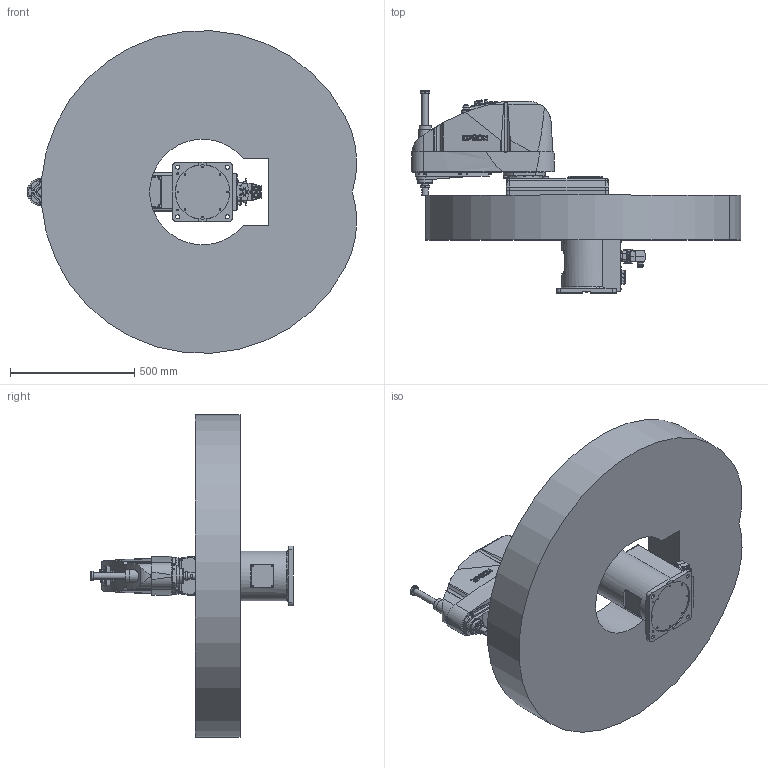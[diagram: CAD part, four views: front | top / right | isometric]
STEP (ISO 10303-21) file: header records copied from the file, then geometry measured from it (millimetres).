
FILE_DESCRIPTION( ( 'STEP AP214' ), '1' );
FILE_NAME( 'C:/Users/9607552/Desktop/GX10-B651S_langle.stp', '2023-08-01T08:56:12', ( '' ), ( '' ), ' ', 'PARTsolutions', ' ' );
FILE_SCHEMA( ( 'AUTOMOTIVE_DESIGN { 1 0 10303 214 1 1 1 1 }' ) );
Length unit declared in the file: millimetre
Products named in the file (7): GX10-B651SA-W; _Base s; _Angle-B; _J1 Arm GX10-250; _J2 Arm GX10-s; _J3 Arm GX10-s (1); _GX10_20B-20_1
Assembly tree (6 placements, depth 2):
  GX10-B651SA-W
    _Base s
    _Angle-B
    _J1 Arm GX10-250
    _J2 Arm GX10-s
    _J3 Arm GX10-s (1)
    _GX10_20B-20_1
Bounding box: 1326.13 x 813.5 x 1298.06 mm (x, y, z)
Volume: 246649254.3 mm3; surface area: 4636009.1 mm2
Topology: 6 solids, 6 shells, 2390 faces, 5842 edges, 3816 vertices
Faces by surface type: plane 1257, cylinder 742, cone 296, torus 62, bspline 32, sphere 1
Full cylindrical faces by diameter (mm): 1 x24, 1.18 x55, 3 x32, 3.242 x10, 3.3 x4, 4.2 x4, 4.8 x4, 5.1 x4, 5.25 x2, 5.34 x4, 5.4 x5, 5.5 x12, 6 x1, 6.2 x4, 6.647 x2, 7 x31, 8 x9, 8.5 x2, 9 x4, 10 x32, 11 x14, 12 x6, 12.25 x1, 13 x2, 14 x8, 14.25 x1, 16 x6, 18 x1, 20.4 x1, 21.7 x2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
Entity records: 90691 total; most frequent: CARTESIAN_POINT 17384, DIRECTION 11177, ORIENTED_EDGE 10390, EDGE_CURVE 5195, AXIS2_PLACEMENT_3D 4267, VERTEX_POINT 3735, EDGE_LOOP 3334, FACE_OUTER_BOUND 2753
